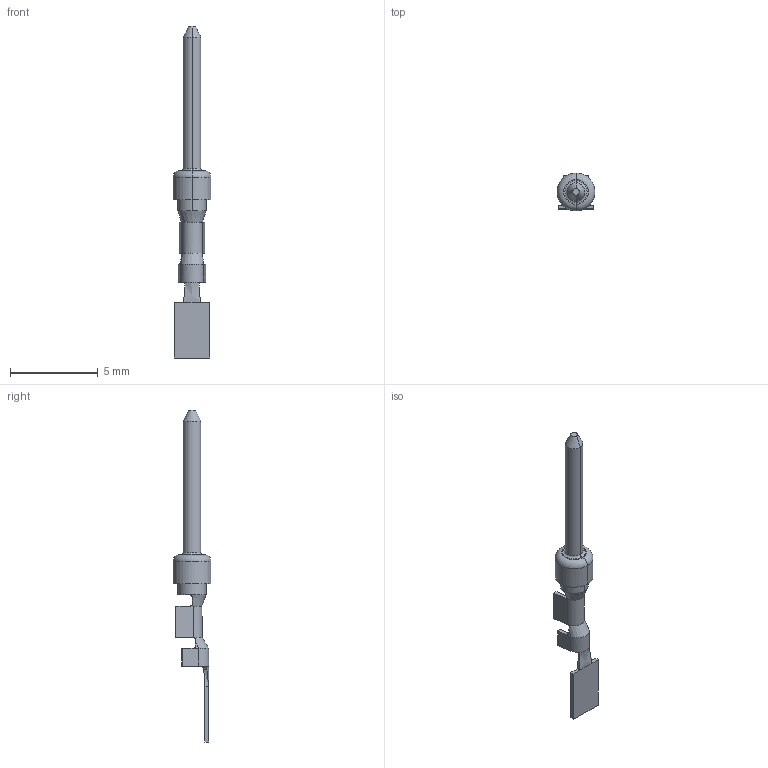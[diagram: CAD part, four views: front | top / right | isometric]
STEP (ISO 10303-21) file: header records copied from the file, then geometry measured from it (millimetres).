
FILE_DESCRIPTION((''),'2;1');
FILE_NAME('C-66507-9','2013-04-30T',('workeradm'),('Tyco Electronics Ltd.'),'PRO/ENGINEER BY PARAMETRIC TECHNOLOGY CORPORATION, 2011490','PRO/ENGINEER BY PARAMETRIC TECHNOLOGY CORPORATION, 2011490','');
FILE_SCHEMA(('AUTOMOTIVE_DESIGN { 1 0 10303 214 1 1 1 1 }'));
Length unit declared in the file: millimetre
Products named in the file (1): C-66507-9
Bounding box: 2.16 x 2.16 x 18.92 mm (x, y, z)
Volume: 16.6 mm3; surface area: 93 mm2
Topology: 1 solids, 1 shells, 76 faces, 194 edges, 122 vertices
Faces by surface type: plane 34, bspline 20, cylinder 16, torus 4, cone 2
Entity records: 3260 total; most frequent: CARTESIAN_POINT 1213, ORIENTED_EDGE 388, DIRECTION 308, EDGE_CURVE 194, COLOUR_RGB 125, VERTEX_POINT 122, AXIS2_PLACEMENT_3D 107, VECTOR 94
